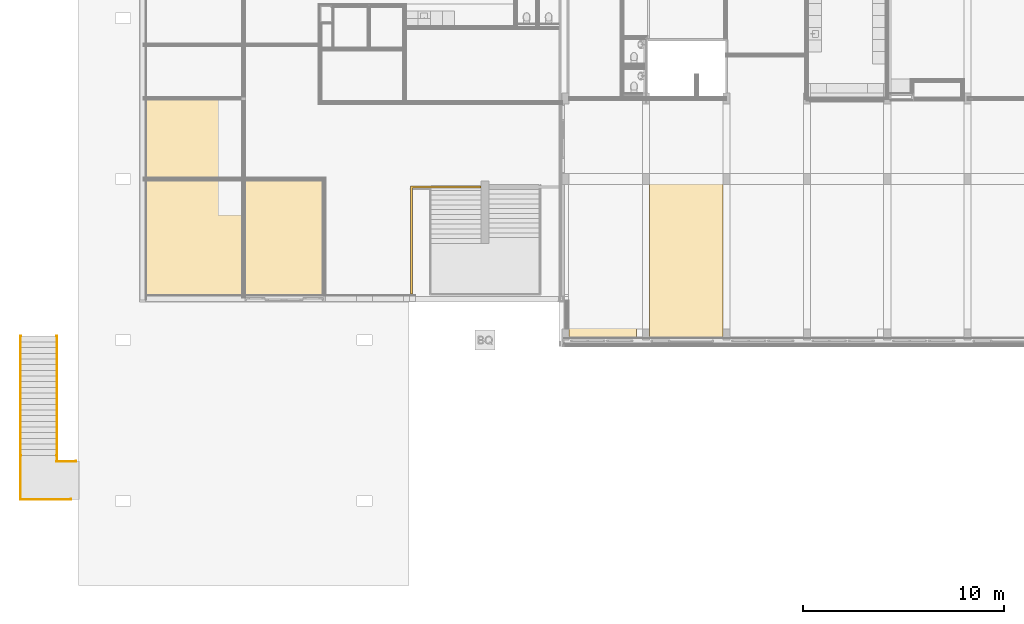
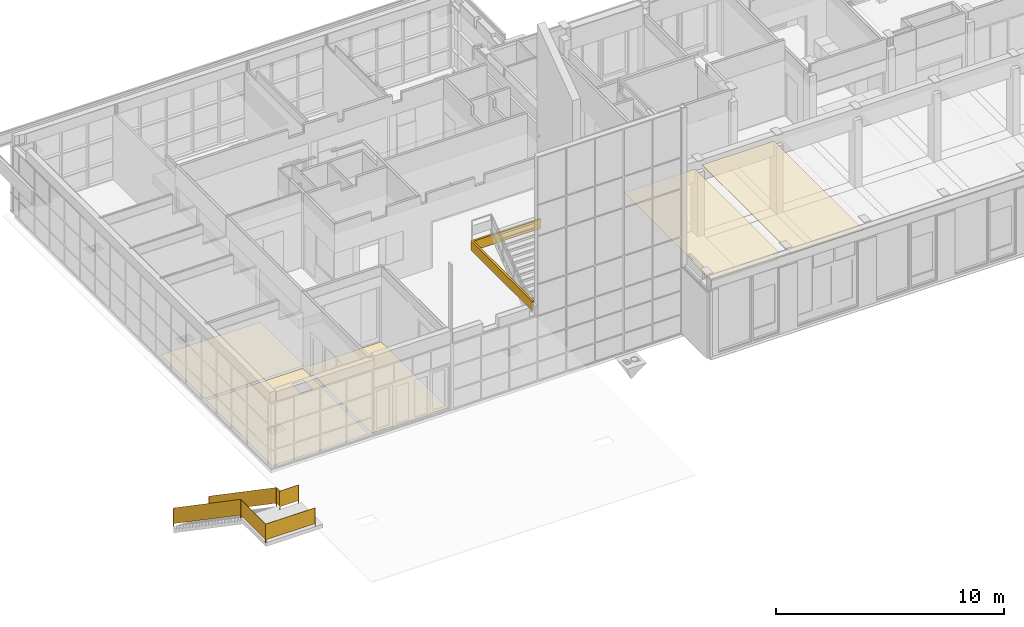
# One storey, part 85 of 109: 6 coverings, 2 railings, 3 openings.
"""IFC2X3 building model written with IfcOpenShell, lengths in millimetres."""

from ifc_helpers import new_model, entity, si_unit, converted_unit, derived_unit, money_unit, direction, frame, origin_with_axes, place, context, subcontext, project, spatial, faceted_brep, material, material_list, type_object, element, save


model = new_model("IFC2X3")

# Units and contexts
model_context = context("Model", 3, precision=0.01, world=origin_with_axes(), true_north=direction((0.0, 1.0)))
body_context = subcontext(model_context, "Body", "Model", "MODEL_VIEW")
ifc_project = project(units=[si_unit("LENGTHUNIT", "METRE", prefix="MILLI"), si_unit("AREAUNIT", "SQUARE_METRE"), si_unit("VOLUMEUNIT", "CUBIC_METRE"), converted_unit("PLANEANGLEUNIT", "DEGREE", entity("IfcPlaneAngleMeasure", 0.0174532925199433), si_unit("PLANEANGLEUNIT", "RADIAN"), dimensions=[0, 0, 0, 0, 0, 0, 0]), money_unit("EUR"), converted_unit("TIMEUNIT", "Year", entity("IfcTimeMeasure", 31557600.0), si_unit("TIMEUNIT", "SECOND"), dimensions=[0, 0, 1, 0, 0, 0, 0]), si_unit("MASSUNIT", "GRAM", prefix="KILO"), si_unit("THERMODYNAMICTEMPERATUREUNIT", "DEGREE_CELSIUS"), si_unit("LUMINOUSINTENSITYUNIT", "LUMEN"), si_unit("ENERGYUNIT", "JOULE", prefix="MEGA"), derived_unit("THERMALCONDUCTANCEUNIT", [(si_unit("POWERUNIT", "WATT"), 1), (si_unit("LENGTHUNIT", "METRE"), -1), (si_unit("THERMODYNAMICTEMPERATUREUNIT", "KELVIN"), -1)]), derived_unit("SPECIFICHEATCAPACITYUNIT", [(si_unit("ENERGYUNIT", "JOULE"), 1), (si_unit("MASSUNIT", "GRAM", prefix="KILO"), -1), (si_unit("THERMODYNAMICTEMPERATUREUNIT", "KELVIN"), -1)]), derived_unit("MASSDENSITYUNIT", [(si_unit("MASSUNIT", "GRAM", prefix="KILO"), 1), (si_unit("VOLUMEUNIT", "CUBIC_METRE"), -1)])], contexts=[model_context])

# Site, building, storey
site_placement = place(None, origin_with_axes())
site = spatial("IfcSite", under=ifc_project, at=site_placement, Name="<site naam>", CompositionType="ELEMENT")
building_placement = place(site_placement, origin_with_axes())
building = spatial("IfcBuilding", under=site, at=building_placement, Name="<Naam gebouw>", CompositionType="ELEMENT")
storey_placement = place(building_placement, origin_with_axes())
storey = spatial("IfcBuildingStorey", under=building, at=storey_placement, Name="00 Begane grond", CompositionType="ELEMENT", Elevation=0.0)

# Coverings
ifc_material_1 = material(Name="schoonloopmat")
covering_type_1 = type_object("IfcCoveringType", Name="VA-04 3", PredefinedType="CEILING")
covering_1_placement = place(storey_placement, frame((-3925.000003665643, 7961.000000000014, 0.0), z_axis=(0.0, 0.0, 1.0), x_axis=(1.0, 0.0, 0.0)))
element("IfcCovering", 1, at=covering_1_placement, inside=storey, type_object=covering_type_1, material=ifc_material_1, Name="43_Vloer_VA-04", PredefinedType="CEILING", context=body_context, shape_type="Brep", body=[
    faceted_brep([(0.0, 0.0, 3.0), (0.0, 0.0, 0.0), (0.0, -5857.500872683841, 0.0), (0.0, -5857.500872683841, 3.0), (3849.999987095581, 0.0, 3.0), (3849.999987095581, 0.0, 0.0), (3849.999987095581, -5857.500872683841, 0.0), (3849.999987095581, -5857.500872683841, 3.0)], [[[0, 1, 2, 3]], [[4, 5, 1, 0]], [[2, 1, 5, 6]], [[3, 2, 6, 7]], [[4, 0, 3, 7]], [[7, 6, 5, 4]]]),
])
ifc_material_2 = material(Name="tapijttegel")
covering_type_2 = type_object("IfcCoveringType", Name="VA-05 3", PredefinedType="CEILING")
covering_2_placement = place(storey_placement, frame((-3924.999999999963, 11937.50000000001, 0.0), z_axis=(0.0, 0.0, 1.0), x_axis=(1.0, 0.0, 0.0)))
element("IfcCovering", 2, at=covering_2_placement, inside=storey, type_object=covering_type_2, material=ifc_material_2, Name="43_Vloer_VA-05", PredefinedType="CEILING", context=body_context, shape_type="Brep", body=[
    faceted_brep([(0.0, 0.0, 3.0), (0.0, 0.0, 0.0), (-5043.963389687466, 0.0, 0.0), (-5043.963389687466, 0.0, 3.0), (0.0, -3862.500000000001, 3.0), (0.0, -3862.500000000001, 0.0), (-5043.963389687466, -3862.500000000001, 0.0), (-5043.963389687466, -3862.500000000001, 3.0)], [[[0, 1, 2, 3]], [[4, 5, 1, 0]], [[2, 1, 5, 6]], [[3, 2, 6, 7]], [[4, 0, 3, 7]], [[7, 6, 5, 4]]]),
])

# Covering, openings
ifc_material_3 = material(Name="Vinyl type 01b")
covering_type_3 = type_object("IfcCoveringType", Name="VA-01b 3", PredefinedType="CEILING")
covering_3_placement = place(storey_placement, frame((-8976.46338968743, 2103.499127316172, 0.0), z_axis=(0.0, 0.0, 1.0), x_axis=(1.0, 0.0, 0.0)))
covering_3 = element("IfcCovering", 3, at=covering_3_placement, inside=storey, type_object=covering_type_3, material=ifc_material_3, Name="43_Vloer_VA-01b", PredefinedType="CEILING", context=body_context, shape_type="Brep", body=[
    faceted_brep([(0.0, 0.0, 3.0), (0.0, 0.0, 0.0), (4901.463426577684, 0.0, 0.0), (4901.463426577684, 0.0, 3.0), (0.0, 5821.500872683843, 3.0), (0.0, 5821.500872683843, 0.0), (4901.463426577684, 5821.500872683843, 0.0), (4901.463426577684, 5821.500872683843, 3.0)], [[[0, 1, 2, 3]], [[4, 5, 1, 0]], [[2, 1, 5, 6]], [[3, 2, 6, 7]], [[4, 0, 3, 7]], [[7, 6, 5, 4]]]),
])
opening_1_placement = place(covering_3_placement, frame((8976.46338968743, -2103.499127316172, 0.0), z_axis=(0.0, 0.0, 1.0), x_axis=(1.0, 0.0, 0.0)))
element("IfcOpeningElement", 4, at=opening_1_placement, cuts=covering_3, Name="43_vloerluik_", context=body_context, shape_type="Brep", body=[
    faceted_brep([(-5099.999999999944, 6308.000000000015, -3.0), (-4499.999999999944, 6308.000000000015, -3.0), (-4499.999999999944, 6308.000000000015, 6.0), (-5099.999999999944, 6308.000000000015, 6.0), (-5099.999999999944, 7108.000000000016, -3.0), (-4499.999999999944, 7108.000000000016, -3.0), (-4499.999999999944, 7108.000000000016, 6.0), (-5099.999999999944, 7108.000000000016, 6.0)], [[[0, 1, 2, 3]], [[0, 4, 5, 1]], [[1, 5, 6, 2]], [[3, 2, 6, 7]], [[4, 0, 3, 7]], [[5, 4, 7, 6]]]),
])
opening_2_placement = place(covering_3_placement, frame((8976.46338968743, -2103.499127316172, 0.0), z_axis=(0.0, 0.0, 1.0), x_axis=(1.0, 0.0, 0.0)))
element("IfcOpeningElement", 5, at=opening_2_placement, cuts=covering_3, Name="43_vloerluik_", context=body_context, shape_type="Brep", body=[
    faceted_brep([(7396.844934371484, 18752.21075162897, -3.0), (7996.844934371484, 18752.21075162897, -3.0), (7996.844934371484, 18752.21075162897, 6.0), (7396.844934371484, 18752.21075162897, 6.0), (7396.844934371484, 19552.21075162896, -3.0), (7996.844934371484, 19552.21075162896, -3.0), (7996.844934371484, 19552.21075162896, 6.0), (7396.844934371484, 19552.21075162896, 6.0)], [[[0, 1, 2, 3]], [[0, 4, 5, 1]], [[1, 5, 6, 2]], [[3, 2, 6, 7]], [[4, 0, 3, 7]], [[5, 4, 7, 6]]]),
])
opening_3_placement = place(covering_3_placement, frame((8976.46338968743, -2103.499127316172, 0.0), z_axis=(0.0, 0.0, 1.0), x_axis=(1.0, 0.0, 0.0)))
element("IfcOpeningElement", 6, at=opening_3_placement, cuts=covering_3, Name="43_vloerluik_", context=body_context, shape_type="Brep", body=[
    faceted_brep([(7494.247971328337, 18902.2479713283, -3.0), (8094.247971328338, 18902.2479713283, -3.0), (8094.247971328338, 18902.2479713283, 6.0), (7494.247971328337, 18902.2479713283, 6.0), (7494.247971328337, 19702.2479713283, -3.0), (8094.247971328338, 19702.2479713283, -3.0), (8094.247971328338, 19702.2479713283, 6.0), (7494.247971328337, 19702.2479713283, 6.0)], [[[0, 1, 2, 3]], [[0, 4, 5, 1]], [[1, 5, 6, 2]], [[3, 2, 6, 7]], [[4, 0, 3, 7]], [[5, 4, 7, 6]]]),
])

# Railings
ifc_material_4 = material(Name="staal balustrade")
ifc_material_5 = material(Name="aluminium")
ifc_material_list = material_list([ifc_material_4, ifc_material_4, ifc_material_4, ifc_material_4, ifc_material_5, ifc_material_5, ifc_material_5])
railing_type = type_object("IfcRailingType", Name="Railing Type", PredefinedType="NOTDEFINED")
railing_1_placement = place(storey_placement, frame((-13269.99999999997, 192.5394119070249, 63.18183593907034), z_axis=(0.0, 0.0, 1.0), x_axis=(1.0, 0.0, 0.0)))
element("IfcRailing", 7, at=railing_1_placement, inside=storey, type_object=railing_type, material=ifc_material_list, Name="34_Reling_", PredefinedType="NOTDEFINED", context=body_context, shape_type="Brep", body=[
    faceted_brep([(-44.99999999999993, -10.00000000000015, 6.846513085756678), (5.000000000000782, -10.00000000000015, 6.846513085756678), (5.000000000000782, -10.00000000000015, 986.8465130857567), (-44.99999999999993, -10.00000000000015, 986.8465130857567), (-44.99999999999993, 9.99999999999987, -6.846513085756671), (5.000000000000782, 9.99999999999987, -6.846513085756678), (5.000000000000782, 9.99999999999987, 973.1534869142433), (-44.99999999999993, 9.99999999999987, 973.1534869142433)], [[[0, 1, 2, 3]], [[0, 4, 5, 1]], [[1, 5, 6, 2]], [[3, 2, 6, 7]], [[4, 0, 3, 7]], [[5, 4, 7, 6]]]),
    faceted_brep([(-44.99999999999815, -5935.378529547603, 4059.913446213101), (5.000000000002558, -5935.378529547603, 4059.913446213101), (5.000000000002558, -5935.378529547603, 5039.913446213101), (-44.99999999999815, -5935.378529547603, 5039.913446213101), (-44.99999999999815, -5915.378529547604, 4053.722881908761), (5.000000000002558, -5915.378529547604, 4053.722881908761), (5.000000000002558, -5915.378529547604, 5033.722881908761), (-44.99999999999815, -5915.378529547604, 5033.722881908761)], [[[0, 1, 2, 3]], [[0, 4, 5, 1]], [[1, 5, 6, 2]], [[3, 2, 6, 7]], [[4, 0, 3, 7]], [[5, 4, 7, 6]]]),
    faceted_brep([(-44.99999999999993, -6237.539411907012, 4056.818164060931), (5.000000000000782, -6237.539411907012, 4056.818164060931), (5.000000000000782, -6237.539411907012, 5036.818164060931), (-44.99999999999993, -6237.539411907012, 5036.818164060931), (-44.99999999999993, -6217.539411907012, 4056.818164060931), (5.000000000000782, -6217.539411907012, 4056.818164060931), (5.000000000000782, -6217.539411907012, 5036.818164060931), (-44.99999999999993, -6217.539411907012, 5036.818164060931)], [[[0, 1, 2, 3]], [[0, 4, 5, 1]], [[1, 5, 6, 2]], [[3, 2, 6, 7]], [[4, 0, 3, 7]], [[5, 4, 7, 6]]]),
    faceted_brep([(937.5717460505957, -6252.539411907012, 4056.818164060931), (937.5717460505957, -6202.539411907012, 4056.818164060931), (937.5717460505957, -6202.539411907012, 5036.818164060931), (937.5717460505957, -6252.539411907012, 5036.818164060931), (917.5717460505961, -6252.539411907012, 4056.818164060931), (917.5717460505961, -6202.539411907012, 4056.818164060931), (917.5717460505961, -6202.539411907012, 5036.818164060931), (917.5717460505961, -6252.539411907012, 5036.818164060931)], [[[0, 1, 2, 3]], [[0, 4, 5, 1]], [[1, 5, 6, 2]], [[3, 2, 6, 7]], [[4, 0, 3, 7]], [[5, 4, 7, 6]]]),
    faceted_brep([(-9.99999999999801, -5915.378529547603, 4209.971650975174), (-9.999999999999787, -10.00000000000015, 166.8465130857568), (-9.999999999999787, -9.99999999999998, 1006.846513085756), (-9.99999999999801, -5915.378529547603, 5049.971650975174), (-29.99999999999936, -10.00000000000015, 166.8465130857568), (-29.99999999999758, -5915.378529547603, 4209.971650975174), (-29.99999999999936, -9.99999999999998, 1006.846513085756), (-29.99999999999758, -5915.378529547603, 5049.971650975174)], [[[0, 1, 2, 3]], [[4, 1, 0, 5]], [[6, 2, 1, 4]], [[3, 2, 6, 7]], [[0, 3, 7, 5]], [[6, 4, 5, 7]]]),
    faceted_brep([(-9.999999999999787, -6217.539411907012, 4216.818164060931), (-9.99999999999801, -5935.378529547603, 4216.818164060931), (-9.99999999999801, -5935.378529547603, 5056.818164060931), (-9.999999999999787, -6217.539411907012, 5056.818164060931), (-29.99999999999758, -5935.378529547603, 4216.818164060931), (-29.99999999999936, -6217.539411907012, 4216.818164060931), (-29.99999999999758, -5935.378529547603, 5056.818164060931), (-29.99999999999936, -6217.539411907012, 5056.818164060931)], [[[0, 1, 2, 3]], [[4, 1, 0, 5]], [[6, 2, 1, 4]], [[3, 2, 6, 7]], [[0, 3, 7, 5]], [[6, 4, 5, 7]]]),
    faceted_brep([(917.5717460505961, -6217.539411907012, 4216.818164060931), (-9.999999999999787, -6217.539411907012, 4216.818164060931), (-9.999999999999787, -6217.539411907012, 5056.818164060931), (917.5717460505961, -6217.539411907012, 5056.818164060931), (-9.999999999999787, -6237.539411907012, 4216.818164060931), (917.5717460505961, -6237.539411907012, 4216.818164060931), (-9.999999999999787, -6237.539411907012, 5056.818164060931), (917.5717460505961, -6237.539411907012, 5056.818164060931)], [[[0, 1, 2, 3]], [[4, 1, 0, 5]], [[6, 2, 1, 4]], [[3, 2, 6, 7]], [[0, 3, 7, 5]], [[6, 4, 5, 7]]]),
])
railing_2_placement = place(storey_placement, frame((-15119.99999999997, 192.5394119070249, 63.18183593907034), z_axis=(0.0, 0.0, 1.0), x_axis=(1.0, 0.0, 0.0)))
element("IfcRailing", 8, at=railing_2_placement, inside=storey, type_object=railing_type, material=ifc_material_list, Name="34_Reling_", PredefinedType="NOTDEFINED", context=body_context, shape_type="Brep", body=[
    faceted_brep([(-5.000000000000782, -9.999999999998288, 6.846513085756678), (44.99999999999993, -9.999999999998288, 6.846513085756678), (44.99999999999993, -9.999999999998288, 986.8465130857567), (-5.000000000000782, -9.999999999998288, 986.8465130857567), (-5.000000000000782, 10.00000000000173, -6.846513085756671), (44.99999999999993, 10.00000000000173, -6.846513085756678), (44.99999999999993, 10.00000000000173, 973.1534869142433), (-5.000000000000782, 10.00000000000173, 973.1534869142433)], [[[0, 1, 2, 3]], [[0, 4, 5, 1]], [[1, 5, 6, 2]], [[3, 2, 6, 7]], [[4, 0, 3, 7]], [[5, 4, 7, 6]]]),
    faceted_brep([(-5.000000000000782, -5935.378529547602, 4059.913446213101), (44.99999999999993, -5935.378529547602, 4059.913446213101), (44.99999999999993, -5935.378529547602, 5039.913446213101), (-5.000000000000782, -5935.378529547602, 5039.913446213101), (-5.000000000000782, -5915.378529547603, 4053.722881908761), (44.99999999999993, -5915.378529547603, 4053.722881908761), (44.99999999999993, -5915.378529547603, 5033.722881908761), (-5.000000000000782, -5915.378529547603, 5033.722881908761)], [[[0, 1, 2, 3]], [[0, 4, 5, 1]], [[1, 5, 6, 2]], [[3, 2, 6, 7]], [[4, 0, 3, 7]], [[5, 4, 7, 6]]]),
    faceted_brep([(-5.000000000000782, -8122.539411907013, 4056.818164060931), (44.99999999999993, -8122.539411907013, 4056.818164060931), (44.99999999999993, -8122.539411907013, 5036.818164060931), (-5.000000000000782, -8122.539411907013, 5036.818164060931), (-5.000000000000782, -8102.539411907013, 4056.818164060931), (44.99999999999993, -8102.539411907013, 4056.818164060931), (44.99999999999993, -8102.539411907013, 5036.818164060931), (-5.000000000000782, -8102.539411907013, 5036.818164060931)], [[[0, 1, 2, 3]], [[0, 4, 5, 1]], [[1, 5, 6, 2]], [[3, 2, 6, 7]], [[4, 0, 3, 7]], [[5, 4, 7, 6]]]),
    faceted_brep([(2540.924628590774, -8137.539411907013, 4056.818164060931), (2540.924628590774, -8087.539411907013, 4056.818164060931), (2540.924628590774, -8087.539411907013, 5036.818164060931), (2540.924628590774, -8137.539411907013, 5036.818164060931), (2520.924628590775, -8137.539411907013, 4056.818164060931), (2520.924628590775, -8087.539411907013, 4056.818164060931), (2520.924628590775, -8087.539411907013, 5036.818164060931), (2520.924628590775, -8137.539411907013, 5036.818164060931)], [[[0, 1, 2, 3]], [[0, 4, 5, 1]], [[1, 5, 6, 2]], [[3, 2, 6, 7]], [[4, 0, 3, 7]], [[5, 4, 7, 6]]]),
    faceted_brep([(29.99999999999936, -5915.378529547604, 4209.971650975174), (29.99999999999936, -9.999999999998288, 166.8465130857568), (29.99999999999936, -9.999999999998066, 1006.846513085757), (29.99999999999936, -5915.378529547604, 5049.971650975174), (9.999999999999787, -9.999999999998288, 166.8465130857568), (9.999999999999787, -5915.378529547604, 4209.971650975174), (9.999999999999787, -9.999999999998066, 1006.846513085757), (9.999999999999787, -5915.378529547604, 5049.971650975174)], [[[0, 1, 2, 3]], [[4, 1, 0, 5]], [[6, 2, 1, 4]], [[3, 2, 6, 7]], [[0, 3, 7, 5]], [[6, 4, 5, 7]]]),
    faceted_brep([(29.99999999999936, -8102.539411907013, 4216.818164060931), (29.99999999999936, -5935.378529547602, 4216.818164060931), (29.99999999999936, -5935.378529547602, 5056.818164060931), (29.99999999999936, -8102.539411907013, 5056.818164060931), (9.999999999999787, -5935.378529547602, 4216.818164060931), (9.999999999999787, -8102.539411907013, 4216.818164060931), (9.999999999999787, -5935.378529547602, 5056.818164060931), (9.999999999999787, -8102.539411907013, 5056.818164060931)], [[[0, 1, 2, 3]], [[4, 1, 0, 5]], [[6, 2, 1, 4]], [[3, 2, 6, 7]], [[0, 3, 7, 5]], [[6, 4, 5, 7]]]),
    faceted_brep([(2520.924628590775, -8102.539411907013, 4216.818164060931), (29.99999999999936, -8102.539411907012, 4216.818164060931), (29.99999999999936, -8102.539411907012, 5056.818164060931), (2520.924628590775, -8102.539411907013, 5056.818164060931), (29.99999999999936, -8122.539411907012, 4216.818164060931), (2520.924628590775, -8122.539411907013, 4216.818164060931), (29.99999999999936, -8122.539411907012, 5056.818164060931), (2520.924628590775, -8122.539411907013, 5056.818164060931)], [[[0, 1, 2, 3]], [[4, 1, 0, 5]], [[6, 2, 1, 4]], [[3, 2, 6, 7]], [[0, 3, 7, 5]], [[6, 4, 5, 7]]]),
])

# Coverings
ifc_material_6 = material(Name="Gipsplafond Rigitone")
covering_type_4 = type_object("IfcCoveringType", Name="PA-03 25", PredefinedType="CEILING")
covering_4_placement = place(storey_placement, frame((19824.99998845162, 7925.000082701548, 3800.0), z_axis=(0.0, 0.0, 1.0), x_axis=(1.0, 0.0, 0.0)))
element("IfcCovering", 9, at=covering_4_placement, inside=storey, type_object=covering_type_4, material=ifc_material_6, Name="45_Vloer_PA-03", PredefinedType="CEILING", context=body_context, shape_type="Brep", body=[
    faceted_brep([(0.0, 0.0, 24.99999999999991), (0.0, 0.0, 0.0), (-3649.999947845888, 0.0, 0.0), (-3649.999947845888, 0.0, 24.99999999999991), (0.0, -7850.016958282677, 24.99999999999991), (0.0, -7850.016958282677, 0.0), (-3649.999947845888, -7850.016958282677, 0.0), (-3649.999947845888, -7850.016958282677, 24.99999999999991)], [[[0, 1, 2, 3]], [[4, 5, 1, 0]], [[2, 1, 5, 6]], [[3, 2, 6, 7]], [[0, 3, 7, 4]], [[7, 6, 5, 4]]]),
])
covering_5_placement = place(storey_placement, frame((12150.00000046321, 549.9999528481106, 3700.0), z_axis=(0.0, 0.0, 1.0), x_axis=(1.0, 0.0, 0.0)))
element("IfcCovering", 10, at=covering_5_placement, inside=storey, type_object=covering_type_4, material=ifc_material_6, Name="45_Vloer_PA-03", PredefinedType="CEILING", context=body_context, shape_type="Brep", body=[
    faceted_brep([(0.0, 0.0, 24.99999999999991), (0.0, 0.0, 0.0), (25.00007379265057, 0.0, 0.0), (25.00007379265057, 0.0, 24.99999999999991), (0.0, 1404.99998672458, 24.99999999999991), (0.0, 1404.99998672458, 0.0), (69.99994360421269, 1404.99998672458, 0.0), (69.99994360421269, 7375.00012985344, 0.0), (3674.999968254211, 7375.00012985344, 0.0), (3674.999968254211, 0.0, 0.0), (3375.000039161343, 0.0, 0.0), (3375.000039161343, -433.9999528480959, 0.0), (25.00007379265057, -433.9999528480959, 0.0), (25.00007379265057, -433.9999528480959, 24.99999999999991), (3375.000039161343, -433.9999528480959, 24.99999999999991), (3375.000039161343, 0.0, 24.99999999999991), (3674.999968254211, 0.0, 24.99999999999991), (3674.999968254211, 7375.00012985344, 24.99999999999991), (69.99994360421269, 7375.00012985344, 24.99999999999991), (69.99994360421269, 1404.99998672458, 24.99999999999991)], [[[0, 1, 2, 3]], [[4, 5, 1, 0]], [[2, 1, 5, 6, 7, 8, 9, 10, 11, 12]], [[3, 2, 12, 13]], [[4, 0, 3, 13, 14, 15, 16, 17, 18, 19]], [[19, 6, 5, 4]], [[18, 7, 6, 19]], [[17, 8, 7, 18]], [[16, 9, 8, 17]], [[15, 10, 9, 16]], [[14, 11, 10, 15]], [[13, 12, 11, 14]]]),
])
ifc_material_7 = material(Name="koven gips")
covering_type_5 = type_object("IfcCoveringType", Name="koven gips 510", PredefinedType="CEILING")
covering_6_placement = place(storey_placement, frame((4301.647670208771, 7671.526524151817, 3560.0), z_axis=(0.0, 0.0, 1.0), x_axis=(1.0, 0.0, 0.0)))
element("IfcCovering", 11, at=covering_6_placement, inside=storey, type_object=covering_type_5, material=ifc_material_7, Name="45_Vloer_koven", PredefinedType="CEILING", context=body_context, shape_type="Brep", body=[
    faceted_brep([(0.0, 0.0, 509.9999999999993), (0.0, 0.0, 0.0), (0.0, -5391.526524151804, 0.0), (0.0, -5391.526524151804, 509.9999999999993), (3498.351746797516, 0.0, 509.9999999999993), (3498.351746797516, 0.0, 0.0), (3498.351746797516, -99.99163599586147, 0.0), (99.99997491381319, -99.99163599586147, 0.0), (99.99997491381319, -5391.526524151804, 0.0), (99.99997491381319, -5391.526524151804, 509.9999999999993), (99.99997491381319, -99.99163599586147, 509.9999999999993), (3498.351746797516, -99.99163599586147, 509.9999999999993)], [[[0, 1, 2, 3]], [[4, 5, 1, 0]], [[2, 1, 5, 6, 7, 8]], [[3, 2, 8, 9]], [[0, 3, 9, 10, 11, 4]], [[11, 6, 5, 4]], [[10, 7, 6, 11]], [[9, 8, 7, 10]]]),
])

save(model, "model.ifc")
